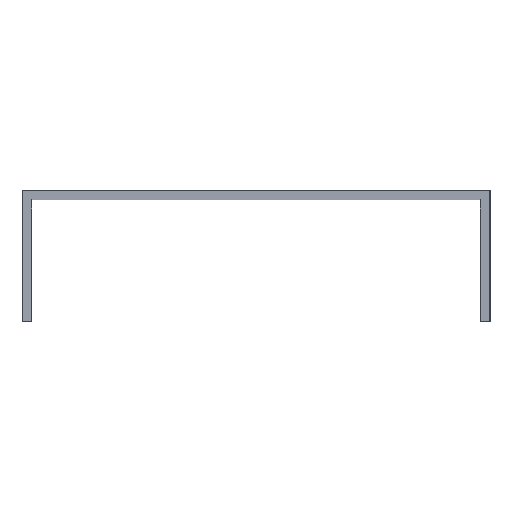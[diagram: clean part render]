
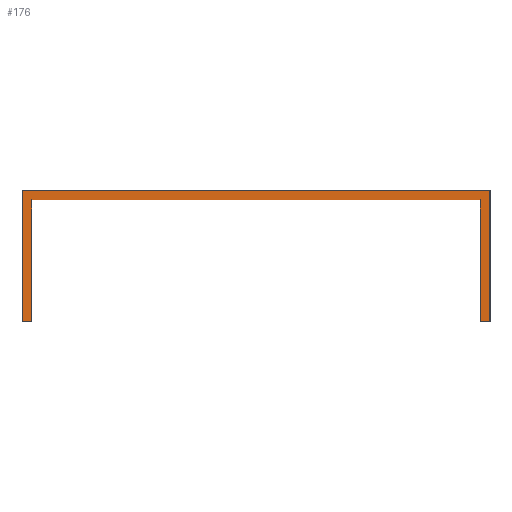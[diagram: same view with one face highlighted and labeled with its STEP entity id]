
A CAD part, left-side view. The second image highlights one B-rep face of the part: STEP entity #176.
In plain terms, the highlighted planar face has unit normal (-1, 0, 0).
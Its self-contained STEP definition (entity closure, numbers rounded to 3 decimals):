
#176=ADVANCED_FACE('',(#351),#352,.T.);
#351=FACE_OUTER_BOUND('',#518,.T.);
#352=PLANE('',#519);
#518=EDGE_LOOP('',(#977,#978,#979,#980,#981,#982,#983,#984,#985,#986,#987,#988));
#519=AXIS2_PLACEMENT_3D('',#989,#990,#991);
#977=ORIENTED_EDGE('',*,*,#1189,.T.);
#978=ORIENTED_EDGE('',*,*,#1185,.T.);
#979=ORIENTED_EDGE('',*,*,#1181,.T.);
#980=ORIENTED_EDGE('',*,*,#1177,.T.);
#981=ORIENTED_EDGE('',*,*,#1153,.T.);
#982=ORIENTED_EDGE('',*,*,#1089,.T.);
#983=ORIENTED_EDGE('',*,*,#1085,.F.);
#984=ORIENTED_EDGE('',*,*,#1092,.F.);
#985=ORIENTED_EDGE('',*,*,#1160,.T.);
#986=ORIENTED_EDGE('',*,*,#1173,.T.);
#987=ORIENTED_EDGE('',*,*,#1169,.T.);
#988=ORIENTED_EDGE('',*,*,#1165,.T.);
#989=CARTESIAN_POINT('',(0.,24.0,10.551));
#990=DIRECTION('',(-1.0,0.0,0.));
#991=DIRECTION('',(0.,0.0,1.0));
#1085=EDGE_CURVE('',#1315,#1317,#1318,.T.);
#1089=EDGE_CURVE('',#1321,#1317,#1323,.T.);
#1092=EDGE_CURVE('',#1325,#1315,#1328,.T.);
#1153=EDGE_CURVE('',#1415,#1321,#1416,.T.);
#1160=EDGE_CURVE('',#1325,#1424,#1426,.T.);
#1165=EDGE_CURVE('',#1434,#1432,#1435,.T.);
#1169=EDGE_CURVE('',#1440,#1434,#1441,.T.);
#1173=EDGE_CURVE('',#1424,#1440,#1445,.T.);
#1177=EDGE_CURVE('',#1450,#1415,#1451,.T.);
#1181=EDGE_CURVE('',#1456,#1450,#1457,.T.);
#1185=EDGE_CURVE('',#1462,#1456,#1463,.T.);
#1189=EDGE_CURVE('',#1432,#1462,#1467,.T.);
#1315=VERTEX_POINT('',#1627);
#1317=VERTEX_POINT('',#1629);
#1318=LINE('',#1630,#1631);
#1321=VERTEX_POINT('',#1634);
#1323=LINE('',#1636,#1637);
#1325=VERTEX_POINT('',#1639);
#1328=LINE('',#1642,#1643);
#1415=VERTEX_POINT('',#1763);
#1416=LINE('',#1764,#1765);
#1424=VERTEX_POINT('',#1776);
#1426=LINE('',#1779,#1780);
#1432=VERTEX_POINT('',#1787);
#1434=VERTEX_POINT('',#1790);
#1435=LINE('',#1791,#1792);
#1440=VERTEX_POINT('',#1799);
#1441=LINE('',#1800,#1801);
#1445=LINE('',#1807,#1808);
#1450=VERTEX_POINT('',#1814);
#1451=LINE('',#1815,#1816);
#1456=VERTEX_POINT('',#1823);
#1457=LINE('',#1824,#1825);
#1462=VERTEX_POINT('',#1832);
#1463=LINE('',#1833,#1834);
#1467=LINE('',#1840,#1841);
#1627=CARTESIAN_POINT('',(0.,1.003,12.495));
#1629=CARTESIAN_POINT('',(0.,1.005,12.495));
#1630=CARTESIAN_POINT('',(0.,1.003,12.495));
#1631=VECTOR('',#1959,1.0);
#1634=CARTESIAN_POINT('',(0.,1.005,12.5));
#1636=CARTESIAN_POINT('',(0.,1.005,12.5));
#1637=VECTOR('',#1966,1.0);
#1639=CARTESIAN_POINT('',(0.,1.003,12.5));
#1642=CARTESIAN_POINT('',(0.,1.003,12.5));
#1643=VECTOR('',#1970,1.0);
#1763=CARTESIAN_POINT('',(0.,47.0,12.5));
#1764=CARTESIAN_POINT('',(0.,47.0,12.5));
#1765=VECTOR('',#2034,1.0);
#1776=CARTESIAN_POINT('',(0.,1.0,12.5));
#1779=CARTESIAN_POINT('',(0.,47.0,12.5));
#1780=VECTOR('',#2039,1.0);
#1787=CARTESIAN_POINT('',(0.,0.0,13.5));
#1790=CARTESIAN_POINT('',(0.,0.0,0.0));
#1791=CARTESIAN_POINT('',(0.,0.0,0.0));
#1792=VECTOR('',#2042,1.0);
#1799=CARTESIAN_POINT('',(0.,1.0,0.0));
#1800=CARTESIAN_POINT('',(0.,1.0,0.0));
#1801=VECTOR('',#2045,1.0);
#1807=CARTESIAN_POINT('',(0.,1.0,12.5));
#1808=VECTOR('',#2048,1.0);
#1814=CARTESIAN_POINT('',(0.,47.0,0.0));
#1815=CARTESIAN_POINT('',(0.,47.0,0.0));
#1816=VECTOR('',#2050,1.0);
#1823=CARTESIAN_POINT('',(0.,48.0,0.0));
#1824=CARTESIAN_POINT('',(0.,48.0,0.0));
#1825=VECTOR('',#2053,1.0);
#1832=CARTESIAN_POINT('',(0.,48.0,13.5));
#1833=CARTESIAN_POINT('',(0.,48.0,13.5));
#1834=VECTOR('',#2056,1.0);
#1840=CARTESIAN_POINT('',(0.,0.0,13.5));
#1841=VECTOR('',#2059,1.0);
#1959=DIRECTION('',(0.,1.0,0.));
#1966=DIRECTION('',(0.,0.,-1.0));
#1970=DIRECTION('',(0.,0.,-1.0));
#2034=DIRECTION('',(0.0,-1.0,0.0));
#2039=DIRECTION('',(0.0,-1.0,0.0));
#2042=DIRECTION('',(0.,0.0,1.0));
#2045=DIRECTION('',(0.0,-1.0,0.0));
#2048=DIRECTION('',(0.,0.0,-1.0));
#2050=DIRECTION('',(0.,0.0,1.0));
#2053=DIRECTION('',(0.0,-1.0,0.0));
#2056=DIRECTION('',(0.,0.0,-1.0));
#2059=DIRECTION('',(0.0,1.0,0.0));
